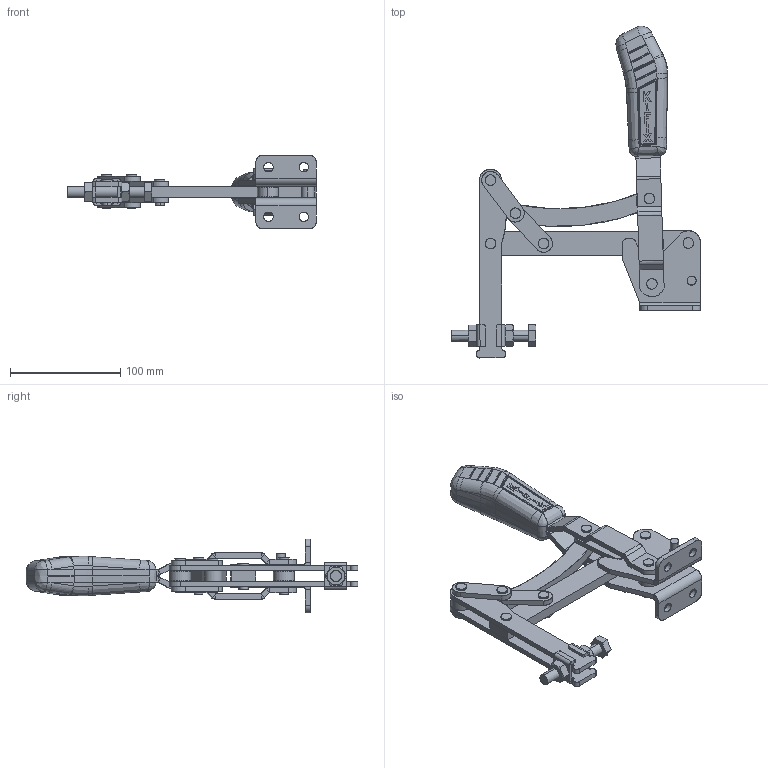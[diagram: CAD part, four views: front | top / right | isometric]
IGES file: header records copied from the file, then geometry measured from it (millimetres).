
Start section: SolidWorks IGES file using analytic representation for surfaces
Global section: file name: C:\Projetos\Grampos\KF-111\KF-111 DS A\KF-111 DS A.IGS; native system: SolidWorks 2013; preprocessor: SolidWorks 2013; author: Ricardo; date: 140905.093623; units: millimetre
Bounding box: 225.42 x 300.63 x 67 mm (x, y, z)
Surface area: 140509.7 mm2 (no closed solid volume)
Topology: 0 solids, 0 shells, 897 faces, 10990 edges, 10971 vertices
Faces by surface type: bspline 512, revolution 385
